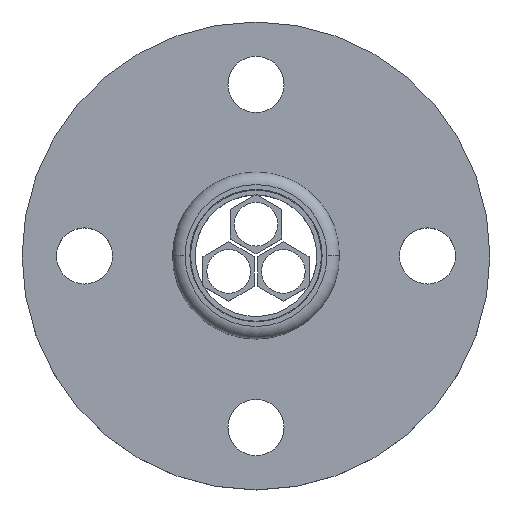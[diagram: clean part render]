
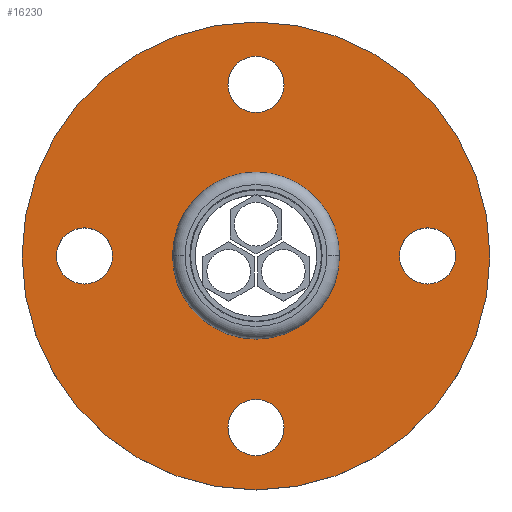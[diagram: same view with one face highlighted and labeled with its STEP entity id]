
A CAD part, top view. The second image highlights one B-rep face of the part: STEP entity #16230.
In plain terms, the highlighted planar face has unit normal (0, 0, 1) as drawn and (0, 1, 0) by its records, which use the part's own axes.
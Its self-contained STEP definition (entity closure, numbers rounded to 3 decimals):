
#540=CARTESIAN_POINT('',(-71.154,155.131,0.));
#550=VERTEX_POINT('',#540);
#730=CARTESIAN_POINT('',(-29.154,155.131,
0.));
#740=VERTEX_POINT('',#730);
#770=CARTESIAN_POINT('',(-50.154,155.131,0.));
#780=DIRECTION('',(0.,1.,0.));
#790=DIRECTION('',(-1.,0.,0.));
#800=AXIS2_PLACEMENT_3D('',#770,#780,#790);
#810=CIRCLE('',#800,21.);
#820=EDGE_CURVE('',#550,#740,#810,.T.);
#15030=CARTESIAN_POINT('',(-105.154,155.131,9.));
#15040=VERTEX_POINT('',#15030);
#15120=CARTESIAN_POINT('',(-105.154,155.131,-9.));
#15130=VERTEX_POINT('',#15120);
#15160=CARTESIAN_POINT('',(-105.154,155.131,0.));
#15170=DIRECTION('',(0.,1.,0.));
#15180=DIRECTION('',(0.,0.,-1.));
#15190=AXIS2_PLACEMENT_3D('',#15160,#15170,#15180);
#15200=CIRCLE('',#15190,9.);
#15210=EDGE_CURVE('',#15040,#15130,#15200,.T.);
#15350=CARTESIAN_POINT('',(24.846,155.131,0.));
#15360=VERTEX_POINT('',#15350);
#15440=CARTESIAN_POINT('',(-125.154,155.131,
0.));
#15450=VERTEX_POINT('',#15440);
#15480=CARTESIAN_POINT('',(-50.154,155.131,0.));
#15490=DIRECTION('',(0.,1.,0.));
#15500=DIRECTION('',(1.,0.,0.));
#15510=AXIS2_PLACEMENT_3D('',#15480,#15490,#15500);
#15520=CIRCLE('',#15510,75.);
#15530=EDGE_CURVE('',#15450,#15360,#15520,.T.);
#15580=CARTESIAN_POINT('',(-100.024,155.131,50.388))
;
#15590=DIRECTION('',(-0.,1.,0.));
#15600=DIRECTION('',(1.,0.,0.));
#15610=AXIS2_PLACEMENT_3D('',#15580,#15590,#15600);
#15620=PLANE('',#15610);
#15630=EDGE_CURVE('',#15360,#15450,#15520,.T.);
#15640=ORIENTED_EDGE('',*,*,#15630,.T.);
#15650=ORIENTED_EDGE('',*,*,#15530,.T.);
#15660=EDGE_LOOP('',(#15650,#15640));
#15670=FACE_OUTER_BOUND('',#15660,.T.);
#15680=CARTESIAN_POINT('',(-50.154,155.131,-55.));
#15690=DIRECTION('',(0.,1.,0.));
#15700=DIRECTION('',(1.,0.,0.));
#15710=AXIS2_PLACEMENT_3D('',#15680,#15690,#15700);
#15720=CIRCLE('',#15710,9.);
#15730=CARTESIAN_POINT('',(-41.154,155.131,-55.));
#15740=VERTEX_POINT('',#15730);
#15750=CARTESIAN_POINT('',(-59.154,155.131,-55.));
#15760=VERTEX_POINT('',#15750);
#15770=EDGE_CURVE('',#15740,#15760,#15720,.T.);
#15780=ORIENTED_EDGE('',*,*,#15770,.F.);
#15790=EDGE_CURVE('',#15760,#15740,#15720,.T.);
#15800=ORIENTED_EDGE('',*,*,#15790,.F.);
#15810=EDGE_LOOP('',(#15800,#15780));
#15820=FACE_BOUND('',#15810,.T.);
#15830=CARTESIAN_POINT('',(-50.154,155.131,55.));
#15840=DIRECTION('',(0.,1.,0.));
#15850=DIRECTION('',(-1.,0.,0.));
#15860=AXIS2_PLACEMENT_3D('',#15830,#15840,#15850);
#15870=CIRCLE('',#15860,9.);
#15880=CARTESIAN_POINT('',(-59.154,155.131,55.));
#15890=VERTEX_POINT('',#15880);
#15900=CARTESIAN_POINT('',(-41.154,155.131,55.));
#15910=VERTEX_POINT('',#15900);
#15920=EDGE_CURVE('',#15890,#15910,#15870,.T.);
#15930=ORIENTED_EDGE('',*,*,#15920,.F.);
#15940=EDGE_CURVE('',#15910,#15890,#15870,.T.);
#15950=ORIENTED_EDGE('',*,*,#15940,.F.);
#15960=EDGE_LOOP('',(#15950,#15930));
#15970=FACE_BOUND('',#15960,.T.);
#15980=EDGE_CURVE('',#740,#550,#810,.T.);
#15990=ORIENTED_EDGE('',*,*,#15980,.F.);
#16000=ORIENTED_EDGE('',*,*,#820,.F.);
#16010=EDGE_LOOP('',(#16000,#15990));
#16020=FACE_BOUND('',#16010,.T.);
#16030=CARTESIAN_POINT('',(4.846,155.131,
0.));
#16040=DIRECTION('',(0.,1.,0.));
#16050=DIRECTION('',(0.,0.,1.));
#16060=AXIS2_PLACEMENT_3D('',#16030,#16040,#16050);
#16070=CIRCLE('',#16060,9.);
#16080=CARTESIAN_POINT('',(4.846,155.131,
9.));
#16090=VERTEX_POINT('',#16080);
#16100=CARTESIAN_POINT('',(4.846,155.131,
-9.));
#16110=VERTEX_POINT('',#16100);
#16120=EDGE_CURVE('',#16090,#16110,#16070,.T.);
#16130=ORIENTED_EDGE('',*,*,#16120,.F.);
#16140=EDGE_CURVE('',#16110,#16090,#16070,.T.);
#16150=ORIENTED_EDGE('',*,*,#16140,.F.);
#16160=EDGE_LOOP('',(#16150,#16130));
#16170=FACE_BOUND('',#16160,.T.);
#16180=EDGE_CURVE('',#15130,#15040,#15200,.T.);
#16190=ORIENTED_EDGE('',*,*,#16180,.F.);
#16200=ORIENTED_EDGE('',*,*,#15210,.F.);
#16210=EDGE_LOOP('',(#16200,#16190));
#16220=FACE_BOUND('',#16210,.T.);
#16230=ADVANCED_FACE('',(#15670,#15820,#15970,#16020,#16170,#16220),
#15620,.T.);
